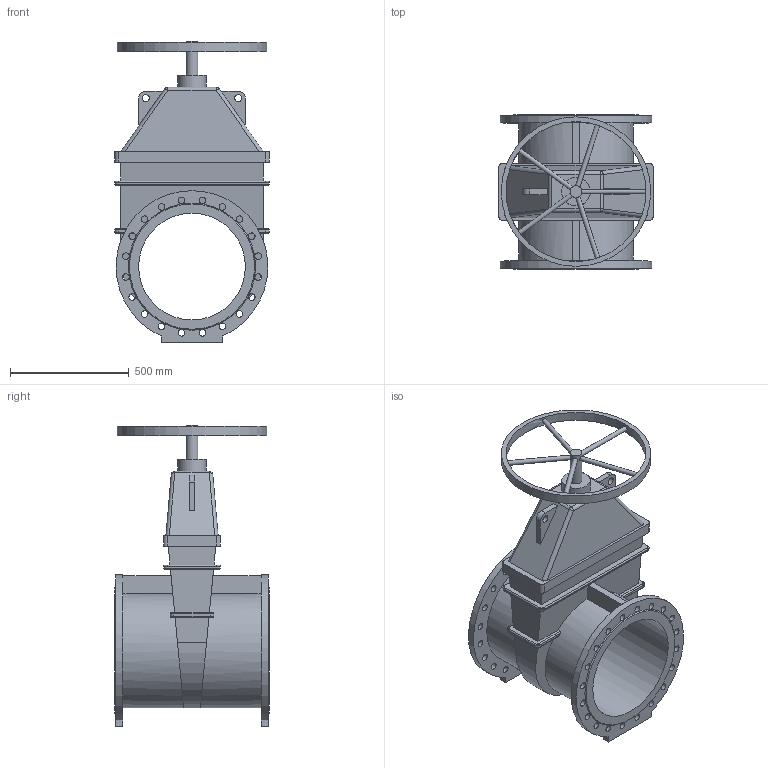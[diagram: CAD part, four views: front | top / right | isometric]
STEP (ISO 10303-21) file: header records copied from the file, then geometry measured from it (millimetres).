
FILE_DESCRIPTION(('STEP AP203'), '1');
FILE_NAME('Çàäâèæêà 47GV DN450 PN10_L650_W630 ñ ìàõîâèêîì', '', ('UNSPECIFIED'), ('UNSPECIFIED'), 'ASCON STEP Converter 1.6', 'ASCON Math Kernel', '');
FILE_SCHEMA(('CONFIG_CONTROL_DESIGN'));
Length unit declared in the file: millimetre
Bounding box: 650 x 650 x 1269 mm (x, y, z)
Volume: 89058990.2 mm3; surface area: 4101308.4 mm2
Topology: 1 solids, 1 shells, 211 faces, 537 edges, 340 vertices
Faces by surface type: cylinder 107, plane 82, bspline 12, torus 8, cone 2
Full cylindrical faces by diameter (mm): 20 x5, 28 x40, 30 x2, 50 x1, 120 x1, 450 x1, 590 x1, 630 x1
Entity records: 10341 total; most frequent: CARTESIAN_POINT 3568, DIRECTION 1020, ORIENTED_EDGE 956, EDGE_CURVE 478, AXIS2_PLACEMENT_3D 394, EDGE_LOOP 378, VERTEX_POINT 340, FACE_BOUND 271
